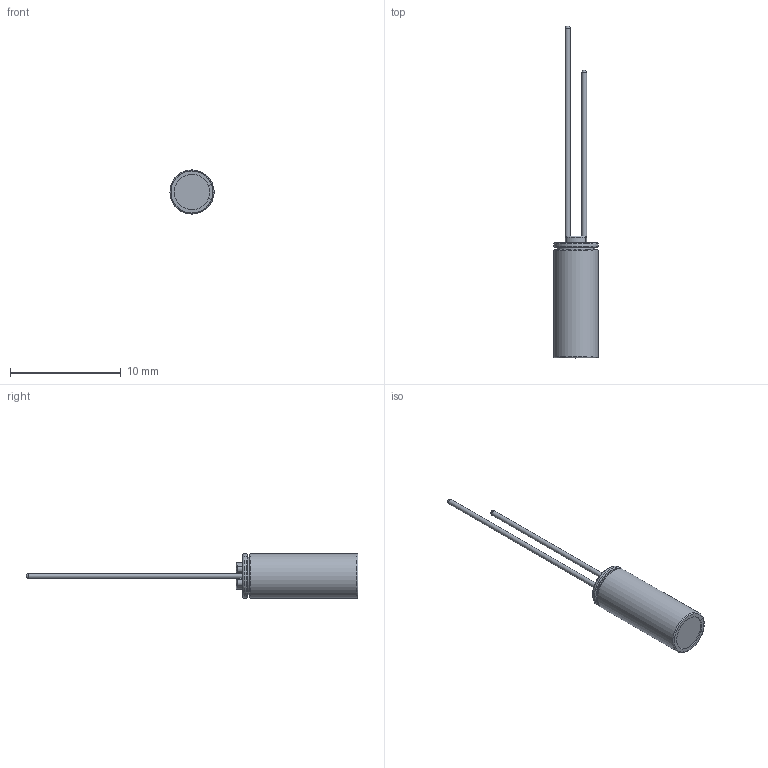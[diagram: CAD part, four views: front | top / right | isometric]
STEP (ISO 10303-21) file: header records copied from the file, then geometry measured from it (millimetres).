
FILE_DESCRIPTION(/* description */ (''),/* implementation_level */ '2;1');
FILE_NAME(/* name */ '4x11_Lead.stp',/* time_stamp */ '2017-09-05T13:33:20+09:00',/* author */ (''),/* organization */ (''),/* preprocessor_version */ 'ST-DEVELOPER v16',/* originating_system */ 'SIEMENS PLM Software NX 11.0',/* authorisation */ '');
FILE_SCHEMA (('AUTOMOTIVE_DESIGN { 1 0 10303 214 3 1 1 1 }'));
Length unit declared in the file: millimetre
Products named in the file (1): 4x11_Lead_0
Bounding box: 3.99 x 30 x 4 mm (x, y, z)
Volume: 136.3 mm3; surface area: 486.2 mm2
Topology: 3 solids, 3 shells, 72 faces, 182 edges, 119 vertices
Faces by surface type: plane 25, cylinder 24, torus 21, sphere 2
Full cylindrical faces by diameter (mm): 0.45 x2, 3.8 x2
Entity records: 2369 total; most frequent: DIRECTION 422, CARTESIAN_POINT 357, ORIENTED_EDGE 340, AXIS2_PLACEMENT_3D 179, EDGE_CURVE 170, VERTEX_POINT 114, CIRCLE 106, EDGE_LOOP 82
